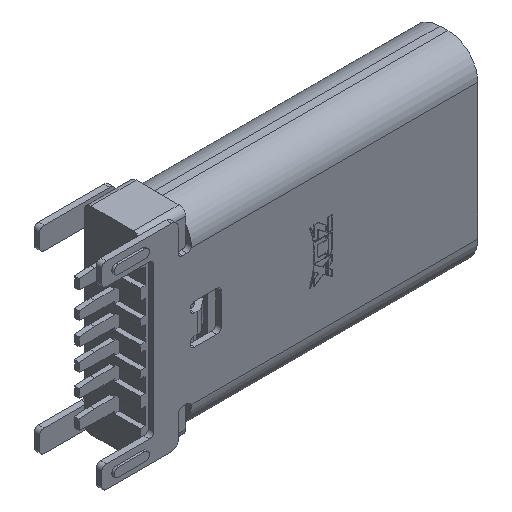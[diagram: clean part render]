
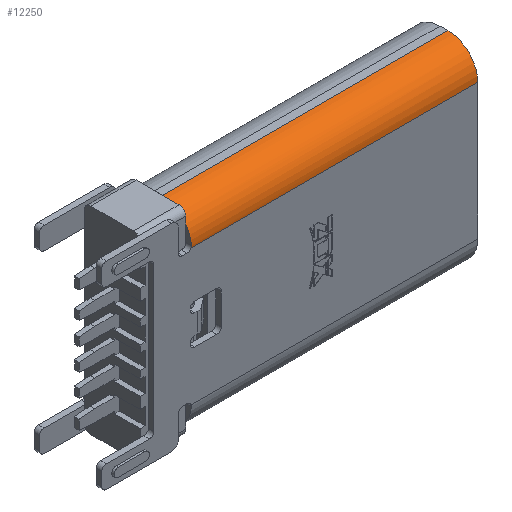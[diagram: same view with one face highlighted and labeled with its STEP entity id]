
A CAD part, isometric view. The second image highlights one B-rep face of the part: STEP entity #12250.
In plain terms, the highlighted cylindrical face has radius 1.35 mm (diameter 2.7 mm), a partial arc.
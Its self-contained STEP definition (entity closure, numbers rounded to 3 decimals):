
#906=CARTESIAN_POINT('',(16.,3.32,-2.43));
#907=DIRECTION('',(-1.,0.,0.));
#908=DIRECTION('',(0.,-1.,0.));
#909=AXIS2_PLACEMENT_3D('',#906,#907,#908);
#1928=DIRECTION('',(-1.,0.,0.));
#1929=VECTOR('',#1928,12.95);
#1930=CARTESIAN_POINT('',(16.,3.32,-1.08));
#1931=LINE('',#1930,#1929);
#1947=CARTESIAN_POINT('',(3.05,3.32,-2.43));
#1948=DIRECTION('',(1.,0.,0.));
#1949=DIRECTION('',(0.,0.,1.));
#1950=AXIS2_PLACEMENT_3D('',#1947,#1948,#1949);
#2944=CARTESIAN_POINT('',(3.05,3.32,-2.43));
#2945=DIRECTION('',(1.,0.,0.));
#2946=DIRECTION('',(0.,-0.807,0.59));
#2947=AXIS2_PLACEMENT_3D('',#2944,#2945,#2946);
#2949=CARTESIAN_POINT('',(3.033,1.97,-2.43));
#2950=CARTESIAN_POINT('',(3.037,1.97,-2.422));
#2951=CARTESIAN_POINT('',(3.043,1.97,-2.404));
#2952=CARTESIAN_POINT('',(3.049,1.971,-2.377));
#2953=CARTESIAN_POINT('',(3.05,1.972,-2.359));
#2954=CARTESIAN_POINT('',(3.05,1.972,-2.35));
#3024=DIRECTION('',(1.,0.,0.));
#3025=VECTOR('',#3024,12.967);
#3026=CARTESIAN_POINT('',(3.033,1.97,-2.43));
#3027=LINE('',#3026,#3025);
#6533=CARTESIAN_POINT('',(3.05,2.23,-1.634));
#6534=VERTEX_POINT('',#6533);
#6563=CARTESIAN_POINT('',(3.05,1.972,-2.35));
#6564=VERTEX_POINT('',#6563);
#6965=VERTEX_POINT('',#2949);
#6966=CARTESIAN_POINT('',(3.05,3.32,-1.08));
#6967=VERTEX_POINT('',#6966);
#6968=CARTESIAN_POINT('',(16.,3.32,-1.08));
#6969=VERTEX_POINT('',#6968);
#6970=CARTESIAN_POINT('',(16.,1.97,-2.43));
#6971=VERTEX_POINT('',#6970);
#12236=CARTESIAN_POINT('',(16.259,3.32,
-2.43));
#12237=DIRECTION('',(-1.,0.,0.));
#12238=DIRECTION('',(0.,0.,1.));
#12239=AXIS2_PLACEMENT_3D('',#12236,#12237,#12238);
#12240=CYLINDRICAL_SURFACE('',#12239,1.35);
#12242=ORIENTED_EDGE('',*,*,#12241,.F.);
#12243=ORIENTED_EDGE('',*,*,#12216,.T.);
#12244=ORIENTED_EDGE('',*,*,#12231,.F.);
#12245=ORIENTED_EDGE('',*,*,#10754,.F.);
#12246=ORIENTED_EDGE('',*,*,#10735,.F.);
#12247=ORIENTED_EDGE('',*,*,#9402,.F.);
#12248=EDGE_LOOP('',(#12242,#12243,#12244,#12245,#12246,#12247));
#12249=FACE_OUTER_BOUND('',#12248,.F.);
#910=CIRCLE('',#909,1.35);
#1951=CIRCLE('',#1950,1.35);
#2948=CIRCLE('',#2947,1.35);
#2955=B_SPLINE_CURVE_WITH_KNOTS('',3,(#2949,#2950,#2951,#2952,#2953,#2954),
.UNSPECIFIED.,.F.,.F.,(4,1,1,4),(0.,0.333,0.667,1.),
.UNSPECIFIED.);
#9402=EDGE_CURVE('',#6971,#6969,#910,.T.);
#10735=EDGE_CURVE('',#6969,#6967,#1931,.T.);
#10754=EDGE_CURVE('',#6967,#6534,#1951,.T.);
#12216=EDGE_CURVE('',#6965,#6564,#2955,.T.);
#12231=EDGE_CURVE('',#6534,#6564,#2948,.T.);
#12241=EDGE_CURVE('',#6965,#6971,#3027,.T.);
#12250=ADVANCED_FACE('',(#12249),#12240,.T.);
